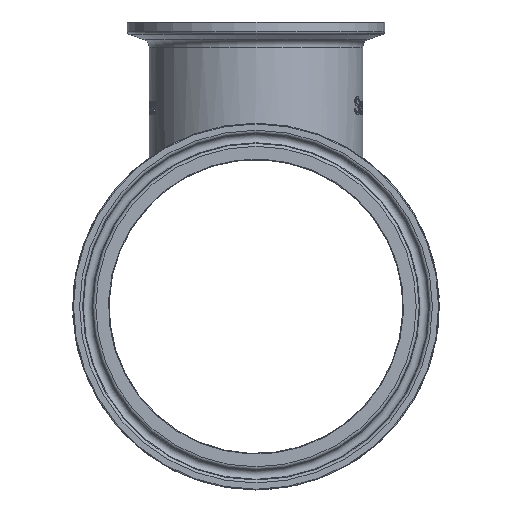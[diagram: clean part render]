
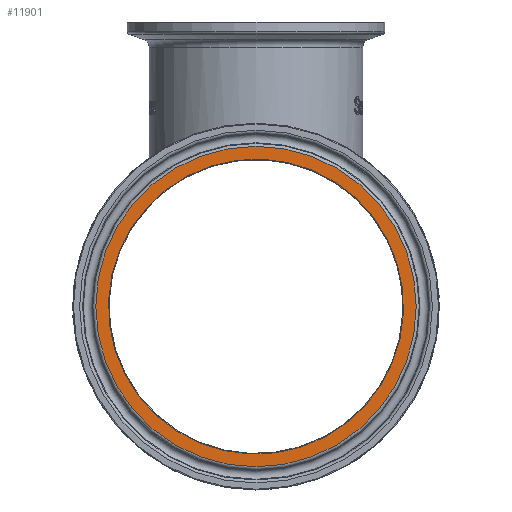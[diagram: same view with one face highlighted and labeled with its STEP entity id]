
A CAD part, left-side view. The second image highlights one B-rep face of the part: STEP entity #11901.
In plain terms, the highlighted planar face has unit normal (-1, 0, 0).
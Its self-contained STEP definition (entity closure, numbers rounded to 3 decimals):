
#282=PLANE('',#12540);
#1632=CIRCLE('',#12541,36.6);
#1633=CIRCLE('',#12542,39.747);
#2131=ORIENTED_EDGE('',*,*,#4611,.T.);
#2132=ORIENTED_EDGE('',*,*,#4612,.T.);
#4611=EDGE_CURVE('',#5860,#5860,#1632,.T.);
#4612=EDGE_CURVE('',#5861,#5861,#1633,.T.);
#5860=VERTEX_POINT('',#16456);
#5861=VERTEX_POINT('',#16458);
#6936=EDGE_LOOP('',(#2131));
#6937=EDGE_LOOP('',(#2132));
#7588=FACE_BOUND('',#6936,.T.);
#7589=FACE_BOUND('',#6937,.T.);
#11901=ADVANCED_FACE('',(#7588,#7589),#282,.F.);
#12540=AXIS2_PLACEMENT_3D('',#16454,#13276,#13277);
#12541=AXIS2_PLACEMENT_3D('',#16455,#13278,#13279);
#12542=AXIS2_PLACEMENT_3D('',#16457,#13280,#13281);
#13276=DIRECTION('',(1.,0.,0.));
#13277=DIRECTION('',(0.,1.,0.));
#13278=DIRECTION('',(1.,0.,0.));
#13279=DIRECTION('',(0.,0.924,0.382));
#13280=DIRECTION('',(-1.,0.,0.));
#13281=DIRECTION('',(0.,-1.,0.));
#16454=CARTESIAN_POINT('',(-110.,-36.474,0.));
#16455=CARTESIAN_POINT('',(-110.,0.,0.));
#16456=CARTESIAN_POINT('',(-110.,33.827,13.976));
#16457=CARTESIAN_POINT('',(-110.,0.,0.));
#16458=CARTESIAN_POINT('',(-110.,-39.747,0.));
